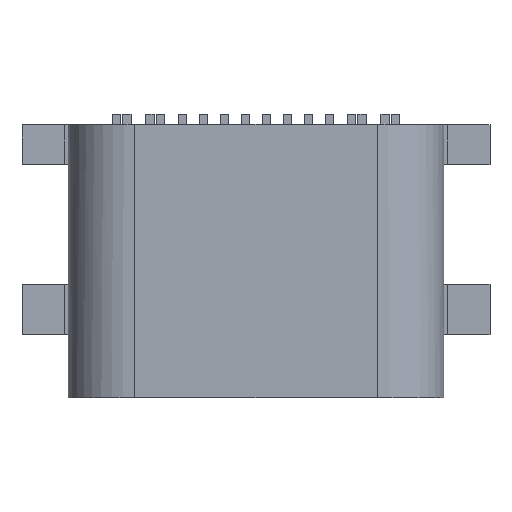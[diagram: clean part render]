
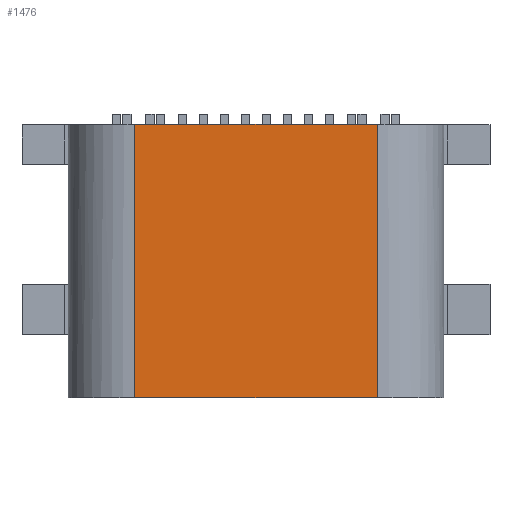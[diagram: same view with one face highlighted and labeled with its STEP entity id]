
A CAD part, top view. The second image highlights one B-rep face of the part: STEP entity #1476.
In plain terms, the highlighted planar face has unit normal (0, 0, 1).
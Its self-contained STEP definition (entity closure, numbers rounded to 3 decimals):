
#199 = VERTEX_POINT('',#200);
#200 = CARTESIAN_POINT('',(2.89,-2.995,3.26));
#215 = CYLINDRICAL_SURFACE('',#216,1.58);
#216 = AXIS2_PLACEMENT_3D('',#217,#218,#219);
#217 = CARTESIAN_POINT('',(2.89,-2.995,1.68));
#218 = DIRECTION('',(0.,1.,0.));
#219 = DIRECTION('',(0.,-0.,1.));
#520 = VERTEX_POINT('',#521);
#521 = CARTESIAN_POINT('',(2.89,3.505,3.26));
#550 = EDGE_CURVE('',#199,#520,#551,.T.);
#551 = SURFACE_CURVE('',#552,(#556,#562),.PCURVE_S1.);
#552 = LINE('',#553,#554);
#553 = CARTESIAN_POINT('',(2.89,-2.995,3.26));
#554 = VECTOR('',#555,1.);
#555 = DIRECTION('',(-0.,1.,0.));
#556 = PCURVE('',#215,#557);
#557 = DEFINITIONAL_REPRESENTATION('',(#558),#561);
#558 = B_SPLINE_CURVE_WITH_KNOTS('',1,(#559,#560),.UNSPECIFIED.,.F.,.F.,
  (2,2),(0.,6.5),.PIECEWISE_BEZIER_KNOTS.);
#559 = CARTESIAN_POINT('',(0.,0.));
#560 = CARTESIAN_POINT('',(0.,6.5));
#561 = ( GEOMETRIC_REPRESENTATION_CONTEXT(2) 
PARAMETRIC_REPRESENTATION_CONTEXT() REPRESENTATION_CONTEXT('2D SPACE',''
  ) );
#562 = PCURVE('',#563,#568);
#563 = PLANE('',#564);
#564 = AXIS2_PLACEMENT_3D('',#565,#566,#567);
#565 = CARTESIAN_POINT('',(-2.89,-2.995,3.26));
#566 = DIRECTION('',(0.,0.,1.));
#567 = DIRECTION('',(1.,0.,-0.));
#568 = DEFINITIONAL_REPRESENTATION('',(#569),#573);
#569 = LINE('',#570,#571);
#570 = CARTESIAN_POINT('',(5.78,0.));
#571 = VECTOR('',#572,1.);
#572 = DIRECTION('',(0.,1.));
#573 = ( GEOMETRIC_REPRESENTATION_CONTEXT(2) 
PARAMETRIC_REPRESENTATION_CONTEXT() REPRESENTATION_CONTEXT('2D SPACE',''
  ) );
#859 = PLANE('',#860);
#860 = AXIS2_PLACEMENT_3D('',#861,#862,#863);
#861 = CARTESIAN_POINT('',(-2.89,-2.995,0.1));
#862 = DIRECTION('',(-0.,1.,0.));
#863 = DIRECTION('',(0.,0.,1.));
#1168 = CYLINDRICAL_SURFACE('',#1169,1.58);
#1169 = AXIS2_PLACEMENT_3D('',#1170,#1171,#1172);
#1170 = CARTESIAN_POINT('',(-2.89,-2.995,1.68));
#1171 = DIRECTION('',(0.,1.,0.));
#1172 = DIRECTION('',(0.,-0.,1.));
#1476 = ADVANCED_FACE('',(#1477),#563,.T.);
#1477 = FACE_BOUND('',#1478,.T.);
#1478 = EDGE_LOOP('',(#1479,#1503,#1524,#1525));
#1479 = ORIENTED_EDGE('',*,*,#1480,.F.);
#1480 = EDGE_CURVE('',#1481,#1483,#1485,.T.);
#1481 = VERTEX_POINT('',#1482);
#1482 = CARTESIAN_POINT('',(-2.89,-2.995,3.26));
#1483 = VERTEX_POINT('',#1484);
#1484 = CARTESIAN_POINT('',(-2.89,3.505,3.26));
#1485 = SURFACE_CURVE('',#1486,(#1490,#1497),.PCURVE_S1.);
#1486 = LINE('',#1487,#1488);
#1487 = CARTESIAN_POINT('',(-2.89,-2.995,3.26));
#1488 = VECTOR('',#1489,1.);
#1489 = DIRECTION('',(-0.,1.,0.));
#1490 = PCURVE('',#563,#1491);
#1491 = DEFINITIONAL_REPRESENTATION('',(#1492),#1496);
#1492 = LINE('',#1493,#1494);
#1493 = CARTESIAN_POINT('',(0.,0.));
#1494 = VECTOR('',#1495,1.);
#1495 = DIRECTION('',(0.,1.));
#1496 = ( GEOMETRIC_REPRESENTATION_CONTEXT(2) 
PARAMETRIC_REPRESENTATION_CONTEXT() REPRESENTATION_CONTEXT('2D SPACE',''
  ) );
#1497 = PCURVE('',#1168,#1498);
#1498 = DEFINITIONAL_REPRESENTATION('',(#1499),#1502);
#1499 = B_SPLINE_CURVE_WITH_KNOTS('',1,(#1500,#1501),.UNSPECIFIED.,.F.,
  .F.,(2,2),(0.,6.5),.PIECEWISE_BEZIER_KNOTS.);
#1500 = CARTESIAN_POINT('',(6.283,0.));
#1501 = CARTESIAN_POINT('',(6.283,6.5));
#1502 = ( GEOMETRIC_REPRESENTATION_CONTEXT(2) 
PARAMETRIC_REPRESENTATION_CONTEXT() REPRESENTATION_CONTEXT('2D SPACE',''
  ) );
#1503 = ORIENTED_EDGE('',*,*,#1504,.T.);
#1504 = EDGE_CURVE('',#1481,#199,#1505,.T.);
#1505 = SURFACE_CURVE('',#1506,(#1510,#1517),.PCURVE_S1.);
#1506 = LINE('',#1507,#1508);
#1507 = CARTESIAN_POINT('',(-2.89,-2.995,3.26));
#1508 = VECTOR('',#1509,1.);
#1509 = DIRECTION('',(1.,0.,-0.));
#1510 = PCURVE('',#563,#1511);
#1511 = DEFINITIONAL_REPRESENTATION('',(#1512),#1516);
#1512 = LINE('',#1513,#1514);
#1513 = CARTESIAN_POINT('',(0.,0.));
#1514 = VECTOR('',#1515,1.);
#1515 = DIRECTION('',(1.,0.));
#1516 = ( GEOMETRIC_REPRESENTATION_CONTEXT(2) 
PARAMETRIC_REPRESENTATION_CONTEXT() REPRESENTATION_CONTEXT('2D SPACE',''
  ) );
#1517 = PCURVE('',#859,#1518);
#1518 = DEFINITIONAL_REPRESENTATION('',(#1519),#1523);
#1519 = LINE('',#1520,#1521);
#1520 = CARTESIAN_POINT('',(3.16,0.));
#1521 = VECTOR('',#1522,1.);
#1522 = DIRECTION('',(0.,1.));
#1523 = ( GEOMETRIC_REPRESENTATION_CONTEXT(2) 
PARAMETRIC_REPRESENTATION_CONTEXT() REPRESENTATION_CONTEXT('2D SPACE',''
  ) );
#1524 = ORIENTED_EDGE('',*,*,#550,.T.);
#1525 = ORIENTED_EDGE('',*,*,#1526,.F.);
#1526 = EDGE_CURVE('',#1483,#520,#1527,.T.);
#1527 = SURFACE_CURVE('',#1528,(#1532,#1539),.PCURVE_S1.);
#1528 = LINE('',#1529,#1530);
#1529 = CARTESIAN_POINT('',(-2.89,3.505,3.26));
#1530 = VECTOR('',#1531,1.);
#1531 = DIRECTION('',(1.,0.,-0.));
#1532 = PCURVE('',#563,#1533);
#1533 = DEFINITIONAL_REPRESENTATION('',(#1534),#1538);
#1534 = LINE('',#1535,#1536);
#1535 = CARTESIAN_POINT('',(0.,6.5));
#1536 = VECTOR('',#1537,1.);
#1537 = DIRECTION('',(1.,0.));
#1538 = ( GEOMETRIC_REPRESENTATION_CONTEXT(2) 
PARAMETRIC_REPRESENTATION_CONTEXT() REPRESENTATION_CONTEXT('2D SPACE',''
  ) );
#1539 = PCURVE('',#1540,#1545);
#1540 = PLANE('',#1541);
#1541 = AXIS2_PLACEMENT_3D('',#1542,#1543,#1544);
#1542 = CARTESIAN_POINT('',(-2.89,3.505,0.1));
#1543 = DIRECTION('',(-0.,1.,0.));
#1544 = DIRECTION('',(0.,0.,1.));
#1545 = DEFINITIONAL_REPRESENTATION('',(#1546),#1550);
#1546 = LINE('',#1547,#1548);
#1547 = CARTESIAN_POINT('',(3.16,0.));
#1548 = VECTOR('',#1549,1.);
#1549 = DIRECTION('',(0.,1.));
#1550 = ( GEOMETRIC_REPRESENTATION_CONTEXT(2) 
PARAMETRIC_REPRESENTATION_CONTEXT() REPRESENTATION_CONTEXT('2D SPACE',''
  ) );
